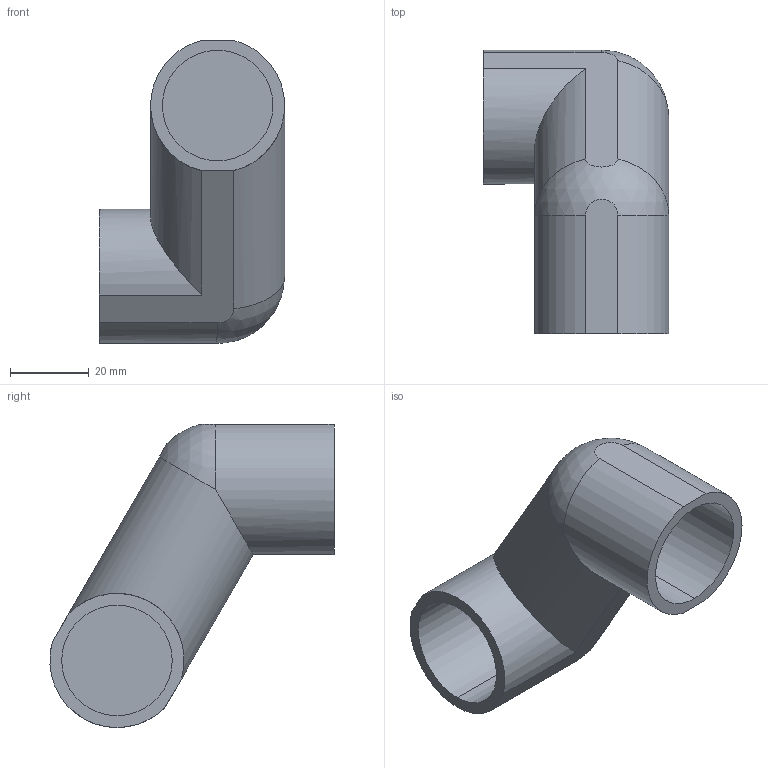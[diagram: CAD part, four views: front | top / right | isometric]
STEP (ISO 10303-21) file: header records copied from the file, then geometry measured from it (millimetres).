
FILE_DESCRIPTION (( 'STEP AP214' ), '1' );
FILE_NAME ('PJ-601L.STEP', '2023-09-12T11:19:45', ( 'catia' ), ( 'HP Inc.' ), 'SwSTEP 2.0', 'SolidWorks 2021', '' );
FILE_SCHEMA (( 'AUTOMOTIVE_DESIGN' ));
Length unit declared in the file: millimetre
Products named in the file (1): PJ-601L
Bounding box: 47 x 71.97 x 76.8 mm (x, y, z)
Volume: 60606.9 mm3; surface area: 18508.2 mm2
Topology: 1 solids, 1 shells, 21 faces, 52 edges, 34 vertices
Faces by surface type: cylinder 11, plane 8, sphere 2
Entity records: 684 total; most frequent: CARTESIAN_POINT 157, DIRECTION 110, ORIENTED_EDGE 98, EDGE_CURVE 49, AXIS2_PLACEMENT_3D 44, VERTEX_POINT 32, EDGE_LOOP 23, LINE 22
